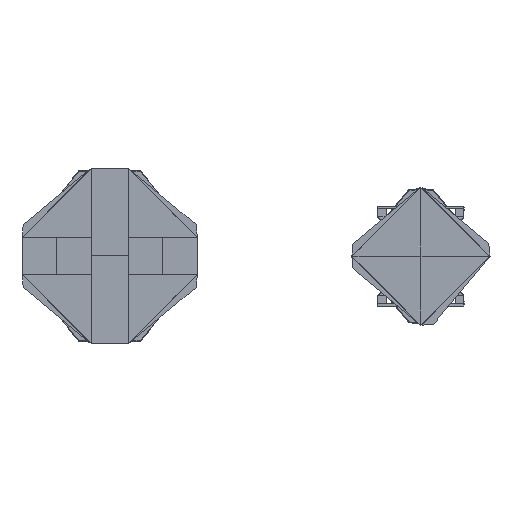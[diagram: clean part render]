
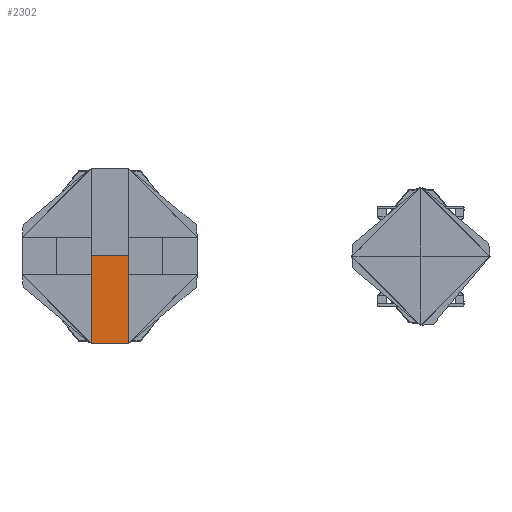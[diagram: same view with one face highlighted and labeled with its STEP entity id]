
A CAD part, top view. The second image highlights one B-rep face of the part: STEP entity #2302.
In plain terms, the highlighted planar face has unit normal (0, 0, 1).
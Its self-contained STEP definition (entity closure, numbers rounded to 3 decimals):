
#2302=ADVANCED_FACE('',(#3250),#14222,.T.);
#3250=FACE_OUTER_BOUND('',#4238,.T.);
#4238=EDGE_LOOP('',(#7593,#7594,#7595,#7596));
#7593=ORIENTED_EDGE('',*,*,#10461,.T.);
#7594=ORIENTED_EDGE('',*,*,#10465,.T.);
#7595=ORIENTED_EDGE('',*,*,#10468,.T.);
#7596=ORIENTED_EDGE('',*,*,#10470,.T.);
#10461=EDGE_CURVE('',#13606,#13605,#12229,.T.);
#10465=EDGE_CURVE('',#13605,#13608,#12233,.T.);
#10468=EDGE_CURVE('',#13608,#13610,#12236,.T.);
#10470=EDGE_CURVE('',#13610,#13606,#12238,.T.);
#12229=B_SPLINE_CURVE_WITH_KNOTS('',1,(#38259,#38260),.UNSPECIFIED.,.F.,
 .F.,(2,2),(-2350.054,-1525.079),.UNSPECIFIED.);
#12233=B_SPLINE_CURVE_WITH_KNOTS('',1,(#38267,#38268),.UNSPECIFIED.,.F.,
 .F.,(2,2),(-1525.079,-1175.027),.UNSPECIFIED.);
#12236=B_SPLINE_CURVE_WITH_KNOTS('',1,(#38273,#38274),.UNSPECIFIED.,.F.,
 .F.,(2,2),(-1175.027,-350.052),.UNSPECIFIED.);
#12238=B_SPLINE_CURVE_WITH_KNOTS('',1,(#38277,#38278),.UNSPECIFIED.,.F.,
 .F.,(2,2),(-350.052,0.),.UNSPECIFIED.);
#13605=VERTEX_POINT('',#38249);
#13606=VERTEX_POINT('',#38250);
#13608=VERTEX_POINT('',#38252);
#13610=VERTEX_POINT('',#38254);
#14222=PLANE('',#14663);
#14663=AXIS2_PLACEMENT_3D('',#38246,#14937,$);
#14937=DIRECTION('',(0.,0.,1.));
#38246=CARTESIAN_POINT('',(-4761.565,1639.458,19.));
#38249=CARTESIAN_POINT('',(-5111.617,814.483,19.));
#38250=CARTESIAN_POINT('',(-5111.617,1639.458,19.));
#38252=CARTESIAN_POINT('',(-4761.565,814.483,19.));
#38254=CARTESIAN_POINT('',(-4761.565,1639.458,19.));
#38259=CARTESIAN_POINT('',(-5111.617,1639.458,19.));
#38260=CARTESIAN_POINT('',(-5111.617,814.483,19.));
#38267=CARTESIAN_POINT('',(-5111.617,814.483,19.));
#38268=CARTESIAN_POINT('',(-4761.565,814.483,19.));
#38273=CARTESIAN_POINT('',(-4761.565,814.483,19.));
#38274=CARTESIAN_POINT('',(-4761.565,1639.458,19.));
#38277=CARTESIAN_POINT('',(-4761.565,1639.458,19.));
#38278=CARTESIAN_POINT('',(-5111.617,1639.458,19.));
